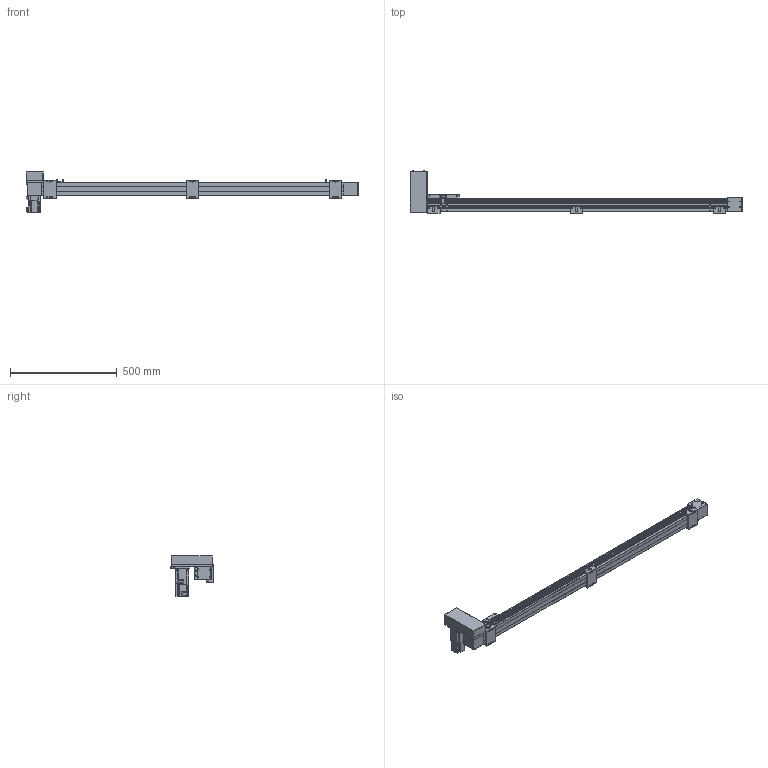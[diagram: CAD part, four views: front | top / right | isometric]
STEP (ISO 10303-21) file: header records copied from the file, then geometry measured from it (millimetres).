
FILE_DESCRIPTION(/* description */ ('STEP AP214'),/* implementation_level */ '2;1');
FILE_NAME(/* name */ 'SK60-P13-S1250-RU-T40-C1-N(0)',/* time_stamp */ '2023-04-06T05:04:07+02:00',/* author */ ('License CC BY-ND 4.0'),/* organization */ ('CADENAS'),/* preprocessor_version */ 'ST-DEVELOPER v19.3',/* originating_system */ 'PARTsolutions',/* authorisation */ ' ');
FILE_SCHEMA (('AUTOMOTIVE_DESIGN {1 0 10303 214 3 1 1}'));
Length unit declared in the file: millimetre
Products named in the file (10): SK60-P13-S1250-RU-T40-C1-N(0); PSC140-sensor; SK60-S450_seat; SK60-S450-BL-C1_slider; SK60_body3; SK60_body6; SK60-BL_body2; T40-p1; SK60-RU_fb; SK60-S1250-RU-C1_body
Assembly tree (17 placements, depth 2):
  SK60-P13-S1250-RU-T40-C1-N(0)
    PSC140-sensor  x3
    SK60-S450_seat  x3
    SK60-S450-BL-C1_slider
    SK60_body3  x3
    SK60_body6  x2
    SK60-BL_body2  x2
    T40-p1
    SK60-RU_fb
    SK60-S1250-RU-C1_body
Bounding box: 1555.5 x 201 x 189.7 mm (x, y, z)
Volume: 6480114 mm3; surface area: 800215.6 mm2
Topology: 17 solids, 17 shells, 854 faces, 2146 edges, 1413 vertices
Faces by surface type: plane 548, cylinder 278, cone 26, torus 2
Full cylindrical faces by diameter (mm): 2.8 x3, 3.3 x4, 4 x2, 4.5 x30, 4.6 x3, 4.917 x20, 5 x6, 5.478 x4, 5.5 x23, 6.5 x6, 7 x2, 8 x4, 8.5 x4, 9.988 x4, 10 x12, 14 x1, 47 x3, 50 x2
Entity records: 18663 total; most frequent: DIRECTION 3186, CARTESIAN_POINT 3151, ORIENTED_EDGE 2940, EDGE_CURVE 1470, AXIS2_PLACEMENT_3D 1069, LINE 1048, VECTOR 1048, VERTEX_POINT 1034
